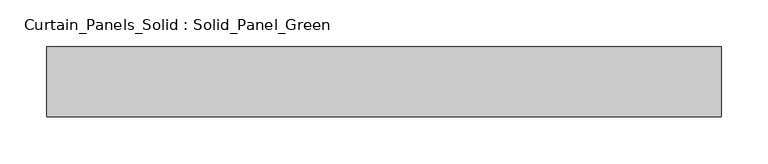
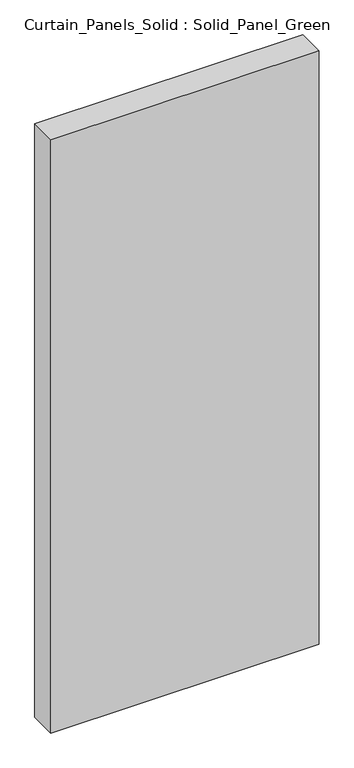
"""IFC4 building model written with IfcOpenShell, lengths in millimetres: plate geometry, Curtain_Panels_Solid : Solid_Panel_Green."""

from ifc_helpers import new_model, si_unit, origin, origin_with_axes, place, context, project, spatial, polyline, outline, extrude, source, transform, mapped, element, save


def curtain_panels_solid_solid_panel_green_6b347029(model_context):
    return source(origin(), model_context, "Body", "SweptSolid", [
        extrude(outline(polyline([(361.2499999, 25.0), (361.2499999, -50.0), (-361.2499999, -50.0), (-361.2499999, 25.0), (361.2499999, 25.0)])), origin_with_axes(), (0.0, 0.0, 1.0), 1690.0),
    ])


if __name__ == "__main__":
    model = new_model("IFC4")
    model_context = context("Model", 3, world=origin())
    ifc_project = project(units=[si_unit("LENGTHUNIT", "METRE", prefix="MILLI")], contexts=[model_context])
    site = spatial("IfcSite", under=ifc_project)
    building = spatial("IfcBuilding", under=site)
    placement = place(None, origin())
    curtain_panels_solid_solid_panel_green_shape = curtain_panels_solid_solid_panel_green_6b347029(model_context)
    element("IfcPlate", 1, ObjectType="Curtain_Panels_Solid : Solid_Panel_Green", at=placement, inside=building, context=model_context, shape_type="MappedRepresentation", body=[
        mapped(curtain_panels_solid_solid_panel_green_shape, transform((0.0, 0.0, 0.0), x_axis=(1.0, 0.0, 0.0), y_axis=(0.0, 1.0, 0.0), z_axis=(0.0, 0.0, 1.0))),
    ])
    save(model, "model.ifc")
